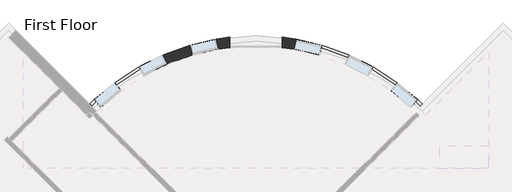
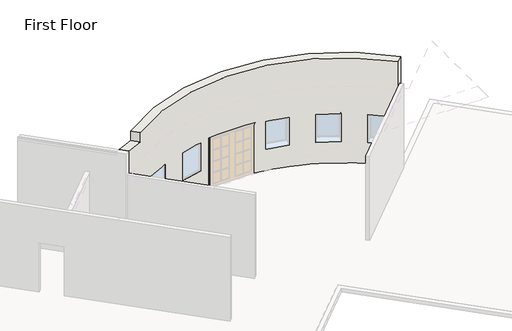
# One storey, part 2 of 4: 1 wall.
"""IFC4 building model written with IfcOpenShell, lengths in millimetres."""

from ifc_helpers import new_model, si_unit, frame, origin, place, context, project, spatial, polyline, circle_curve, ellipse_curve, element, save
from ifc_brep_helpers import plane_surface, cylinder_surface, revolved_surface, advanced_brep

model = new_model("IFC4")

# Units and contexts
model_context = context("Model", 3, world=origin())
ifc_project = project(units=[si_unit("LENGTHUNIT", "METRE", prefix="MILLI")], contexts=[model_context])

# Site, building, storey
site = spatial("IfcSite", under=ifc_project)
building = spatial("IfcBuilding", under=site)
storey = spatial("IfcBuildingStorey", under=building, Name="First Floor", Elevation=0.0)

# Wall
placement = place(None, origin())
element("IfcWall", 1, ObjectType="Exterior - Split Face and CMU on Mtl. Stud", at=placement, inside=storey, context=model_context, shape_type="AdvancedBrep", body=[
    advanced_brep(
    [(-7732.4664887, 9541.1807277, 4572.0), (2926.4294954, 8746.9912878, 4572.0), (2926.4294954, 8746.9912878, 3251.2), (-8662.486224, 8746.9912878, 3251.2), (-8662.486224, 8746.9912878, 4572.0), (-7732.4664887, 9541.1807277, 4165.6), (-3783.1764381, 11081.700582, 0.0), (-8662.486224, 8746.9912878, 0.0), (-8662.486224, 8746.9912878, 1016.0), (-8500.5279216, 8903.2474265, 1016.0), (-8500.5279216, 8903.2474265, 914.4), (-7800.1106469, 9491.0764845, 914.4), (-7800.1106469, 9491.0764845, 1016.0), (-6944.2047205, 10052.3449451, 1016.0), (-6944.2047205, 10052.3449451, 914.4), (-6125.9140626, 10460.4230739, 914.4), (-6125.9140626, 10460.4230739, 1016.0), (-5162.631365, 10806.3763718, 1016.0), (-5162.631365, 10806.3763718, 914.4), (-4271.6861959, 11012.153109, 914.4), (-4271.6861959, 11012.153109, 1016.0), (-3783.1764381, 11081.700582, 1016.0), (2926.4294954, 8746.9912878, 0.0), (-1954.3764458, 11081.8678573, 0.0), (-1954.3764458, 11081.8678573, 1016.0), (-1464.3705327, 11012.153109, 1016.0), (-1464.3705327, 11012.153109, 914.4), (-573.4253636, 10806.3763718, 914.4), (-573.4253636, 10806.3763718, 1016.0), (389.857334, 10460.4230739, 1016.0), (389.857334, 10460.4230739, 914.4), (1208.1479919, 10052.3449451, 914.4), (1208.1479919, 10052.3449451, 1016.0), (2064.0539183, 9491.0764845, 1016.0), (2064.0539183, 9491.0764845, 914.4), (2764.471193, 8903.2474265, 914.4), (2764.471193, 8903.2474265, 1016.0), (2926.4294954, 8746.9912878, 1016.0), (-1954.3764458, 11081.8678573, 2133.6), (-3783.1764381, 11081.700582, 2133.6), (-3783.1764381, 11081.700582, 2336.8), (-4271.6861959, 11012.153109, 2336.8), (-4271.6861959, 11012.153109, 2133.6), (-5162.631365, 10806.3763718, 2133.6), (-5162.631365, 10806.3763718, 2336.8), (-6125.9140626, 10460.4230739, 2336.8), (-6125.9140626, 10460.4230739, 2133.6), (-6944.2047205, 10052.3449451, 2133.6), (-6944.2047205, 10052.3449451, 2336.8), (-7800.1106469, 9491.0764845, 2336.8), (-7800.1106469, 9491.0764845, 2133.6), (-8500.5279216, 8903.2474265, 2133.6), (-8500.5279216, 8903.2474265, 2336.8), (-8662.486224, 8746.9912878, 2336.8), (-8662.486224, 8746.9912878, 3048.0), (2926.4294954, 8746.9912878, 3048.0), (2926.4294954, 8746.9912878, 2336.8), (2764.471193, 8903.2474265, 2336.8), (2764.471193, 8903.2474265, 2133.6), (2064.0539183, 9491.0764845, 2133.6), (2064.0539183, 9491.0764845, 2336.8), (1208.1479919, 10052.3449451, 2336.8), (1208.1479919, 10052.3449451, 2133.6), (389.857334, 10460.4230739, 2133.6), (389.857334, 10460.4230739, 2336.8), (-573.4253636, 10806.3763718, 2336.8), (-573.4253636, 10806.3763718, 2133.6), (-1464.3705327, 11012.153109, 2133.6), (-1464.3705327, 11012.153109, 2336.8), (-1954.3764458, 11081.8678573, 2336.8), (-1954.3764458, 11081.8678573, 1085.85), (-1954.3764458, 11081.8678573, 2133.6), (-1464.3705327, 11012.153109, 2133.6), (-1464.3705327, 11012.153109, 1085.85), (-3783.1764381, 11081.700582, 2133.6), (-3783.1764381, 11081.700582, 1085.85), (-4271.6861959, 11012.153109, 1085.85), (-4271.6861959, 11012.153109, 2133.6), (389.857334, 10460.4230739, 2133.6), (389.857334, 10460.4230739, 1085.85), (-573.4253636, 10806.3763718, 1085.85), (-573.4253636, 10806.3763718, 2133.6), (1208.1479919, 10052.3449451, 1085.85), (1208.1479919, 10052.3449451, 2133.6), (2064.0539183, 9491.0764845, 2133.6), (2064.0539183, 9491.0764845, 1085.85), (2764.471193, 8903.2474265, 1085.85), (2764.471193, 8903.2474265, 2133.6), (2926.4294954, 8746.9912878, 2133.6), (2926.4294954, 8746.9912878, 1085.85), (-6944.2047205, 10052.3449451, 2133.6), (-6944.2047205, 10052.3449451, 1085.85), (-7800.1106469, 9491.0764845, 1085.85), (-7800.1106469, 9491.0764845, 2133.6), (-6125.9140626, 10460.4230739, 1085.85), (-6125.9140626, 10460.4230739, 2133.6), (-5162.631365, 10806.3763718, 2133.6), (-5162.631365, 10806.3763718, 1085.85), (-8500.5279216, 8903.2474265, 2133.6), (-8500.5279216, 8903.2474265, 1085.85), (-8662.486224, 8746.9912878, 1085.85), (-8662.486224, 8746.9912878, 2133.6), (2677.2250436, 8497.7868359, 0.0), (2677.2250436, 8497.7868359, 4165.6), (2677.2250436, 8497.7868359, 4572.0), (-7480.1850855, 9288.8993245, 4572.0), (-7480.1850855, 9288.8993245, 4165.6), (-8413.2817722, 8497.7868359, 4572.0), (-8413.2817722, 8497.7868359, 0.0), (-3783.1439929, 10726.9805509, 0.0), (-3783.1439929, 10726.9805509, 2133.6), (-1954.3440005, 10727.1478261, 2133.6), (-1954.3440005, 10727.1478261, 0.0), (232.3230312, 10144.5305053, 914.4), (232.3230312, 10144.5305053, 2133.6), (1050.6136891, 9736.4523766, 2133.6), (1050.6136891, 9736.4523766, 914.4), (-1543.8084946, 10668.2130246, 914.4), (-1543.8084946, 10668.2130246, 2133.6), (-652.8633255, 10462.4362874, 2133.6), (-652.8633255, 10462.4362874, 914.4), (1837.1286453, 9220.6877054, 914.4), (1837.1286453, 9220.6877054, 2133.6), (2537.5459199, 8632.8586475, 2133.6), (2537.5459199, 8632.8586475, 914.4), (-6786.6704177, 9736.4523766, 914.4), (-6786.6704177, 9736.4523766, 2133.6), (-5968.3797598, 10144.5305053, 2133.6), (-5968.3797598, 10144.5305053, 914.4), (-5083.1934032, 10462.4362874, 914.4), (-5083.1934032, 10462.4362874, 2133.6), (-4192.248234, 10668.2130246, 2133.6), (-4192.248234, 10668.2130246, 914.4), (-8273.6026485, 8632.8586475, 914.4), (-8273.6026485, 8632.8586475, 2133.6), (-7573.1853739, 9220.6877054, 2133.6), (-7573.1853739, 9220.6877054, 914.4), (2861.3220456, 8681.8838379, 1016.0), (2861.3220456, 8681.8838379, 1085.85), (2861.3220456, 8681.8838379, 2133.6), (2861.3220456, 8681.8838379, 2336.8), (2861.3220456, 8681.8838379, 3048.0), (2861.3220456, 8681.8838379, 3251.2), (-8597.3787742, 8681.8838379, 3251.2), (-8597.3787742, 8681.8838379, 3048.0), (-8597.3787742, 8681.8838379, 2336.8), (-8597.3787742, 8681.8838379, 2133.6), (-8597.3787742, 8681.8838379, 1085.85), (-8597.3787742, 8681.8838379, 1016.0), (-3783.1679632, 10989.045348, 1016.0), (-3783.1679632, 10989.045348, 1085.85), (-3783.1679632, 10989.045348, 2133.6), (-1964.5986316, 10990.3620512, 2133.6), (-1954.3679708, 10989.2126232, 2133.6), (-3772.9375129, 10990.1966475, 2133.6), (-1954.3679708, 10989.2126232, 1085.85), (-1954.3679708, 10989.2126232, 1016.0), (348.7018531, 10377.8968537, 1016.0), (348.7018531, 10377.8968537, 1085.85), (348.7018531, 10377.8968537, 2133.6), (1166.992511, 9969.8187249, 2133.6), (1166.992511, 9969.8187249, 1085.85), (1166.992511, 9969.8187249, 1016.0), (1162.5426237, 9972.357721, 2133.6), (353.4072239, 10375.8701608, 2133.6), (-1485.1235209, 10922.2995387, 1016.0), (-1485.1235209, 10922.2995387, 1085.85), (-1485.1235209, 10922.2995387, 2133.6), (-594.1783517, 10716.5228014, 2133.6), (-594.1783517, 10716.5228014, 1085.85), (-594.1783517, 10716.5228014, 1016.0), (-599.0980052, 10717.9528393, 2133.6), (-1480.0750378, 10921.4272905, 2133.6), (2004.7702032, 9420.4380266, 1016.0), (2004.7702032, 9420.4380266, 1085.85), (2004.7702032, 9420.4380266, 2133.6), (2705.1874778, 8832.6089686, 2133.6), (2705.1874778, 8832.6089686, 1085.85), (2705.1874778, 8832.6089686, 1016.0), (2701.4532581, 8836.1166176, 2133.6), (2008.8724422, 9417.3688844, 2133.6), (-6903.0492396, 9969.8187249, 1016.0), (-6903.0492396, 9969.8187249, 1085.85), (-6903.0492396, 9969.8187249, 2133.6), (-6084.7585817, 10377.8968537, 2133.6), (-6084.7585817, 10377.8968537, 1085.85), (-6084.7585817, 10377.8968537, 1016.0), (-6089.4639525, 10375.8701608, 2133.6), (-6898.5993523, 9972.357721, 2133.6), (-5141.8783769, 10716.5228014, 1016.0), (-5141.8783769, 10716.5228014, 1085.85), (-5141.8783769, 10716.5228014, 2133.6), (-4250.9332077, 10922.2995387, 2133.6), (-4250.9332077, 10922.2995387, 1085.85), (-4250.9332077, 10922.2995387, 1016.0), (-4255.9816908, 10921.4272905, 2133.6), (-5136.9587234, 10717.9528393, 2133.6), (-8441.2442064, 8832.6089686, 1016.0), (-8441.2442064, 8832.6089686, 1085.85), (-8441.2442064, 8832.6089686, 2133.6), (-7740.8269318, 9420.4380266, 2133.6), (-7740.8269318, 9420.4380266, 1085.85), (-7740.8269318, 9420.4380266, 1016.0), (-7744.9291708, 9417.3688844, 2133.6), (-8437.5099867, 8836.1166176, 2133.6), (-8437.5099867, 8836.1166176, 2336.8), (-7744.9291708, 9417.3688844, 2336.8), (-6898.5993523, 9972.357721, 2336.8), (-6089.4639525, 10375.8701608, 2336.8), (-5136.9587234, 10717.9528393, 2336.8), (-4255.9816908, 10921.4272905, 2336.8), (-3772.9375129, 10990.1966475, 2336.8), (-1964.5986316, 10990.3620512, 2336.8), (-1480.0750378, 10921.4272905, 2336.8), (-599.0980052, 10717.9528393, 2336.8), (353.4072239, 10375.8701608, 2336.8), (1162.5426237, 9972.357721, 2336.8), (2008.8724422, 9417.3688844, 2336.8), (2701.4532581, 8836.1166176, 2336.8)],
    [
        (0, 1, circle_curve(frame((-2868.0283643, 2903.1420194, 4572.0), z_axis=(0.0, 0.0, -1.0), x_axis=(1.0, 0.0, 0.0)), 8229.6)),
        (1, 2),
        (2, 3, circle_curve(frame((-2868.0283643, 2903.1420194, 3251.2), z_axis=(0.0, 0.0, 1.0), x_axis=(1.0, 0.0, 0.0)), 8229.6)),
        (3, 4),
        (4, 5, ellipse_curve(frame((-2868.0283643, 2903.1420194, 4583.6416667), z_axis=(-0.2236067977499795, -0.22360679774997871, -0.9486832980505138), x_axis=(-0.6708203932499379, -0.6708203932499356, 0.31622776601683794)), 8674.7600774, 8229.6)),
        (5, 0),
        (6, 7, circle_curve(frame((-2868.0283643, 2903.1420194, 0.0), z_axis=(0.0, 0.0, 1.0), x_axis=(1.0, 0.0, 0.0)), 8229.6)),
        (7, 8),
        (8, 9, circle_curve(frame((-2868.0283643, 2903.1420194, 1016.0), z_axis=(0.0, 0.0, -1.0), x_axis=(1.0, 0.0, 0.0)), 8229.6)),
        (9, 10),
        (10, 11, circle_curve(frame((-2868.0283643, 2903.1420194, 914.4), z_axis=(0.0, 0.0, -1.0), x_axis=(1.0, 0.0, 0.0)), 8229.6)),
        (11, 12),
        (12, 13, circle_curve(frame((-2868.0283643, 2903.1420194, 1016.0), z_axis=(0.0, 0.0, -1.0), x_axis=(1.0, 0.0, 0.0)), 8229.6)),
        (13, 14),
        (14, 15, circle_curve(frame((-2868.0283643, 2903.1420194, 914.4), z_axis=(0.0, 0.0, -1.0), x_axis=(1.0, 0.0, 0.0)), 8229.6)),
        (15, 16),
        (16, 17, circle_curve(frame((-2868.0283643, 2903.1420194, 1016.0), z_axis=(0.0, 0.0, -1.0), x_axis=(1.0, 0.0, 0.0)), 8229.6)),
        (17, 18),
        (18, 19, circle_curve(frame((-2868.0283643, 2903.1420194, 914.4), z_axis=(0.0, 0.0, -1.0), x_axis=(1.0, 0.0, 0.0)), 8229.6)),
        (19, 20),
        (20, 21, circle_curve(frame((-2868.0283643, 2903.1420194, 1016.0), z_axis=(0.0, 0.0, -1.0), x_axis=(1.0, 0.0, 0.0)), 8229.6)),
        (21, 6),
        (22, 23, circle_curve(frame((-2868.0283643, 2903.1420194, 0.0), z_axis=(0.0, 0.0, 1.0), x_axis=(1.0, 0.0, 0.0)), 8229.6)),
        (23, 24),
        (24, 25, circle_curve(frame((-2868.0283643, 2903.1420194, 1016.0), z_axis=(0.0, 0.0, -1.0), x_axis=(1.0, 0.0, 0.0)), 8229.6)),
        (25, 26),
        (26, 27, circle_curve(frame((-2868.0283643, 2903.1420194, 914.4), z_axis=(0.0, 0.0, -1.0), x_axis=(1.0, 0.0, 0.0)), 8229.6)),
        (27, 28),
        (28, 29, circle_curve(frame((-2868.0283643, 2903.1420194, 1016.0), z_axis=(0.0, 0.0, -1.0), x_axis=(1.0, 0.0, 0.0)), 8229.6)),
        (29, 30),
        (30, 31, circle_curve(frame((-2868.0283643, 2903.1420194, 914.4), z_axis=(0.0, 0.0, -1.0), x_axis=(1.0, 0.0, 0.0)), 8229.6)),
        (31, 32),
        (32, 33, circle_curve(frame((-2868.0283643, 2903.1420194, 1016.0), z_axis=(0.0, 0.0, -1.0), x_axis=(1.0, 0.0, 0.0)), 8229.6)),
        (33, 34),
        (34, 35, circle_curve(frame((-2868.0283643, 2903.1420194, 914.4), z_axis=(0.0, 0.0, -1.0), x_axis=(1.0, 0.0, 0.0)), 8229.6)),
        (35, 36),
        (36, 37, circle_curve(frame((-2868.0283643, 2903.1420194, 1016.0), z_axis=(0.0, 0.0, -1.0), x_axis=(1.0, 0.0, 0.0)), 8229.6)),
        (37, 22),
        (38, 39, circle_curve(frame((-2868.0283643, 2903.1420194, 2133.6), z_axis=(0.0, 0.0, 1.0), x_axis=(1.0, 0.0, 0.0)), 8229.6)),
        (39, 40),
        (40, 41, circle_curve(frame((-2868.0283643, 2903.1420194, 2336.8), z_axis=(0.0, 0.0, 1.0), x_axis=(1.0, 0.0, 0.0)), 8229.6)),
        (41, 42),
        (42, 43, circle_curve(frame((-2868.0283643, 2903.1420194, 2133.6), z_axis=(0.0, 0.0, 1.0), x_axis=(1.0, 0.0, 0.0)), 8229.6)),
        (43, 44),
        (44, 45, circle_curve(frame((-2868.0283643, 2903.1420194, 2336.8), z_axis=(0.0, 0.0, 1.0), x_axis=(1.0, 0.0, 0.0)), 8229.6)),
        (45, 46),
        (46, 47, circle_curve(frame((-2868.0283643, 2903.1420194, 2133.6), z_axis=(0.0, 0.0, 1.0), x_axis=(1.0, 0.0, 0.0)), 8229.6)),
        (47, 48),
        (48, 49, circle_curve(frame((-2868.0283643, 2903.1420194, 2336.8), z_axis=(0.0, 0.0, 1.0), x_axis=(1.0, 0.0, 0.0)), 8229.6)),
        (49, 50),
        (50, 51, circle_curve(frame((-2868.0283643, 2903.1420194, 2133.6), z_axis=(0.0, 0.0, 1.0), x_axis=(1.0, 0.0, 0.0)), 8229.6)),
        (51, 52),
        (52, 53, circle_curve(frame((-2868.0283643, 2903.1420194, 2336.8), z_axis=(0.0, 0.0, 1.0), x_axis=(1.0, 0.0, 0.0)), 8229.6)),
        (53, 54),
        (54, 55, circle_curve(frame((-2868.0283643, 2903.1420194, 3048.0), z_axis=(0.0, 0.0, -1.0), x_axis=(1.0, 0.0, 0.0)), 8229.6)),
        (55, 56),
        (56, 57, circle_curve(frame((-2868.0283643, 2903.1420194, 2336.8), z_axis=(0.0, 0.0, 1.0), x_axis=(1.0, 0.0, 0.0)), 8229.6)),
        (57, 58),
        (58, 59, circle_curve(frame((-2868.0283643, 2903.1420194, 2133.6), z_axis=(0.0, 0.0, 1.0), x_axis=(1.0, 0.0, 0.0)), 8229.6)),
        (59, 60),
        (60, 61, circle_curve(frame((-2868.0283643, 2903.1420194, 2336.8), z_axis=(0.0, 0.0, 1.0), x_axis=(1.0, 0.0, 0.0)), 8229.6)),
        (61, 62),
        (62, 63, circle_curve(frame((-2868.0283643, 2903.1420194, 2133.6), z_axis=(0.0, 0.0, 1.0), x_axis=(1.0, 0.0, 0.0)), 8229.6)),
        (63, 64),
        (64, 65, circle_curve(frame((-2868.0283643, 2903.1420194, 2336.8), z_axis=(0.0, 0.0, 1.0), x_axis=(1.0, 0.0, 0.0)), 8229.6)),
        (65, 66),
        (66, 67, circle_curve(frame((-2868.0283643, 2903.1420194, 2133.6), z_axis=(0.0, 0.0, 1.0), x_axis=(1.0, 0.0, 0.0)), 8229.6)),
        (67, 68),
        (68, 69, circle_curve(frame((-2868.0283643, 2903.1420194, 2336.8), z_axis=(0.0, 0.0, 1.0), x_axis=(1.0, 0.0, 0.0)), 8229.6)),
        (69, 38),
        (70, 71),
        (71, 72, circle_curve(frame((-2868.0283643, 2903.1420194, 2133.6), z_axis=(0.0, 0.0, -1.0), x_axis=(1.0, 0.0, 0.0)), 8229.6)),
        (72, 73),
        (73, 70, circle_curve(frame((-2868.0283643, 2903.1420194, 1085.85), z_axis=(0.0, 0.0, 1.0), x_axis=(1.0, 0.0, 0.0)), 8229.6)),
        (74, 75),
        (75, 76, circle_curve(frame((-2868.0283643, 2903.1420194, 1085.85), z_axis=(0.0, 0.0, 1.0), x_axis=(1.0, 0.0, 0.0)), 8229.6)),
        (76, 77),
        (77, 74, circle_curve(frame((-2868.0283643, 2903.1420194, 2133.6), z_axis=(0.0, 0.0, -1.0), x_axis=(1.0, 0.0, 0.0)), 8229.6)),
        (78, 79),
        (79, 80, circle_curve(frame((-2868.0283643, 2903.1420194, 1085.85), z_axis=(0.0, 0.0, 1.0), x_axis=(1.0, 0.0, 0.0)), 8229.6)),
        (80, 81),
        (81, 78, circle_curve(frame((-2868.0283643, 2903.1420194, 2133.6), z_axis=(0.0, 0.0, -1.0), x_axis=(1.0, 0.0, 0.0)), 8229.6)),
        (82, 83),
        (83, 84, circle_curve(frame((-2868.0283643, 2903.1420194, 2133.6), z_axis=(0.0, 0.0, -1.0), x_axis=(1.0, 0.0, 0.0)), 8229.6)),
        (84, 85),
        (85, 82, circle_curve(frame((-2868.0283643, 2903.1420194, 1085.85), z_axis=(0.0, 0.0, 1.0), x_axis=(1.0, 0.0, 0.0)), 8229.6)),
        (86, 87),
        (87, 88, circle_curve(frame((-2868.0283643, 2903.1420194, 2133.6), z_axis=(0.0, 0.0, -1.0), x_axis=(1.0, 0.0, 0.0)), 8229.6)),
        (88, 89),
        (89, 86, circle_curve(frame((-2868.0283643, 2903.1420194, 1085.85), z_axis=(0.0, 0.0, 1.0), x_axis=(1.0, 0.0, 0.0)), 8229.6)),
        (90, 91),
        (91, 92, circle_curve(frame((-2868.0283643, 2903.1420194, 1085.85), z_axis=(0.0, 0.0, 1.0), x_axis=(1.0, 0.0, 0.0)), 8229.6)),
        (92, 93),
        (93, 90, circle_curve(frame((-2868.0283643, 2903.1420194, 2133.6), z_axis=(0.0, 0.0, -1.0), x_axis=(1.0, 0.0, 0.0)), 8229.6)),
        (94, 95),
        (95, 96, circle_curve(frame((-2868.0283643, 2903.1420194, 2133.6), z_axis=(0.0, 0.0, -1.0), x_axis=(1.0, 0.0, 0.0)), 8229.6)),
        (96, 97),
        (97, 94, circle_curve(frame((-2868.0283643, 2903.1420194, 1085.85), z_axis=(0.0, 0.0, 1.0), x_axis=(1.0, 0.0, 0.0)), 8229.6)),
        (98, 99),
        (99, 100, circle_curve(frame((-2868.0283643, 2903.1420194, 1085.85), z_axis=(0.0, 0.0, 1.0), x_axis=(1.0, 0.0, 0.0)), 8229.6)),
        (100, 101),
        (101, 98, circle_curve(frame((-2868.0283643, 2903.1420194, 2133.6), z_axis=(0.0, 0.0, -1.0), x_axis=(1.0, 0.0, 0.0)), 8229.6)),
        (102, 103),
        (103, 104),
        (104, 105, circle_curve(frame((-2868.0283643, 2903.1420194, 4572.0), z_axis=(0.0, 0.0, 1.0), x_axis=(1.0, 0.0, 0.0)), 7877.175)),
        (105, 106),
        (106, 107, ellipse_curve(frame((-2868.0283643, 2903.1420194, 4583.6416667), z_axis=(0.2236067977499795, 0.22360679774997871, 0.9486832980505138), x_axis=(0.6708203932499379, 0.6708203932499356, -0.31622776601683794)), 8303.2715092, 7877.175)),
        (107, 108),
        (108, 109, circle_curve(frame((-2868.0283643, 2903.1420194, 0.0), z_axis=(0.0, 0.0, -1.0), x_axis=(1.0, 0.0, 0.0)), 7877.175)),
        (109, 110),
        (110, 111, circle_curve(frame((-2868.0283643, 2903.1420194, 2133.6), z_axis=(0.0, 0.0, -1.0), x_axis=(1.0, 0.0, 0.0)), 7877.175)),
        (111, 112),
        (112, 102, circle_curve(frame((-2868.0283643, 2903.1420194, 0.0), z_axis=(0.0, 0.0, -1.0), x_axis=(1.0, 0.0, 0.0)), 7877.175)),
        (113, 114),
        (114, 115, circle_curve(frame((-2868.0283643, 2903.1420194, 2133.6), z_axis=(0.0, 0.0, -1.0), x_axis=(1.0, 0.0, 0.0)), 7877.175)),
        (115, 116),
        (116, 113, circle_curve(frame((-2868.0283643, 2903.1420194, 914.4), z_axis=(0.0, 0.0, 1.0), x_axis=(1.0, 0.0, 0.0)), 7877.175)),
        (117, 118),
        (118, 119, circle_curve(frame((-2868.0283643, 2903.1420194, 2133.6), z_axis=(0.0, 0.0, -1.0), x_axis=(1.0, 0.0, 0.0)), 7877.175)),
        (119, 120),
        (120, 117, circle_curve(frame((-2868.0283643, 2903.1420194, 914.4), z_axis=(0.0, 0.0, 1.0), x_axis=(1.0, 0.0, 0.0)), 7877.175)),
        (121, 122),
        (122, 123, circle_curve(frame((-2868.0283643, 2903.1420194, 2133.6), z_axis=(0.0, 0.0, -1.0), x_axis=(1.0, 0.0, 0.0)), 7877.175)),
        (123, 124),
        (124, 121, circle_curve(frame((-2868.0283643, 2903.1420194, 914.4), z_axis=(0.0, 0.0, 1.0), x_axis=(1.0, 0.0, 0.0)), 7877.175)),
        (125, 126),
        (126, 127, circle_curve(frame((-2868.0283643, 2903.1420194, 2133.6), z_axis=(0.0, 0.0, -1.0), x_axis=(1.0, 0.0, 0.0)), 7877.175)),
        (127, 128),
        (128, 125, circle_curve(frame((-2868.0283643, 2903.1420194, 914.4), z_axis=(0.0, 0.0, 1.0), x_axis=(1.0, 0.0, 0.0)), 7877.175)),
        (129, 130),
        (130, 131, circle_curve(frame((-2868.0283643, 2903.1420194, 2133.6), z_axis=(0.0, 0.0, -1.0), x_axis=(1.0, 0.0, 0.0)), 7877.175)),
        (131, 132),
        (132, 129, circle_curve(frame((-2868.0283643, 2903.1420194, 914.4), z_axis=(0.0, 0.0, 1.0), x_axis=(1.0, 0.0, 0.0)), 7877.175)),
        (133, 134),
        (134, 135, circle_curve(frame((-2868.0283643, 2903.1420194, 2133.6), z_axis=(0.0, 0.0, -1.0), x_axis=(1.0, 0.0, 0.0)), 7877.175)),
        (135, 136),
        (136, 133, circle_curve(frame((-2868.0283643, 2903.1420194, 914.4), z_axis=(0.0, 0.0, 1.0), x_axis=(1.0, 0.0, 0.0)), 7877.175)),
        (1, 104),
        (102, 22),
        (37, 137),
        (137, 138),
        (138, 89),
        (88, 139),
        (139, 140),
        (140, 56),
        (55, 141),
        (141, 142),
        (142, 2),
        (107, 4),
        (3, 143),
        (143, 144),
        (144, 54),
        (53, 145),
        (145, 146),
        (146, 101),
        (100, 147),
        (147, 148),
        (148, 8),
        (7, 108),
        (0, 105),
        (5, 106),
        (112, 23),
        (6, 109),
        (21, 149),
        (149, 150),
        (150, 75),
        (74, 151),
        (151, 110),
        (38, 152),
        (152, 153, circle_curve(frame((-2868.0283643, 2903.1420194, 2133.6), z_axis=(0.0, 0.0, -1.0), x_axis=(0.1110202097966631, 0.9938181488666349, 0.0)), 8137.525)),
        (153, 111),
        (151, 154, circle_curve(frame((-2868.0283643, 2903.1420194, 2133.6), z_axis=(0.0, 0.0, -1.0), x_axis=(-0.1705620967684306, 0.9853469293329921, 0.0)), 8137.525)),
        (154, 39),
        (153, 71),
        (70, 155),
        (155, 156),
        (156, 24),
        (113, 30),
        (29, 157),
        (157, 158),
        (158, 79),
        (78, 159),
        (159, 114),
        (116, 31),
        (115, 160),
        (160, 83),
        (82, 161),
        (161, 162),
        (162, 32),
        (62, 163),
        (163, 160, circle_curve(frame((-2868.0283643, 2903.1420194, 2133.6), z_axis=(0.0, 0.0, -1.0), x_axis=(0.4953067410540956, 0.868718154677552, 0.0)), 8137.525)),
        (159, 164, circle_curve(frame((-2868.0283643, 2903.1420194, 2133.6), z_axis=(0.0, 0.0, -1.0), x_axis=(0.2788231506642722, 0.9603424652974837, 0.0)), 8137.525)),
        (164, 63),
        (117, 26),
        (25, 165),
        (165, 166),
        (166, 73),
        (72, 167),
        (167, 118),
        (120, 27),
        (119, 168),
        (168, 81),
        (80, 169),
        (169, 170),
        (170, 28),
        (66, 171),
        (171, 168, circle_curve(frame((-2868.0283643, 2903.1420194, 2133.6), z_axis=(0.0, 0.0, -1.0), x_axis=(0.2788231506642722, 0.9603424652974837, 0.0)), 8137.525)),
        (167, 172, circle_curve(frame((-2868.0283643, 2903.1420194, 2133.6), z_axis=(0.0, 0.0, -1.0), x_axis=(0.1110202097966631, 0.9938181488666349, 0.0)), 8137.525)),
        (172, 67),
        (121, 34),
        (33, 173),
        (173, 174),
        (174, 85),
        (84, 175),
        (175, 122),
        (124, 35),
        (123, 176),
        (176, 87),
        (86, 177),
        (177, 178),
        (178, 36),
        (58, 179),
        (179, 176, circle_curve(frame((-2868.0283643, 2903.1420194, 2133.6), z_axis=(0.0, 0.0, -1.0), x_axis=(0.6844196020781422, 0.7290883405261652, 0.0)), 8137.525)),
        (175, 180, circle_curve(frame((-2868.0283643, 2903.1420194, 2133.6), z_axis=(0.0, 0.0, -1.0), x_axis=(0.4953067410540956, 0.868718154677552, 0.0)), 8137.525)),
        (180, 59),
        (125, 14),
        (13, 181),
        (181, 182),
        (182, 91),
        (90, 183),
        (183, 126),
        (128, 15),
        (127, 184),
        (184, 95),
        (94, 185),
        (185, 186),
        (186, 16),
        (46, 187),
        (187, 184, circle_curve(frame((-2868.0283643, 2903.1420194, 2133.6), z_axis=(0.0, 0.0, -1.0), x_axis=(-0.3958741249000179, 0.9183047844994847, 0.0)), 8137.525)),
        (183, 188, circle_curve(frame((-2868.0283643, 2903.1420194, 2133.6), z_axis=(0.0, 0.0, -1.0), x_axis=(-0.5993100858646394, 0.8005169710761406, 0.0)), 8137.525)),
        (188, 47),
        (129, 18),
        (17, 189),
        (189, 190),
        (190, 97),
        (96, 191),
        (191, 130),
        (132, 19),
        (131, 192),
        (192, 77),
        (76, 193),
        (193, 194),
        (194, 20),
        (42, 195),
        (195, 192, circle_curve(frame((-2868.0283643, 2903.1420194, 2133.6), z_axis=(0.0, 0.0, -1.0), x_axis=(-0.1705620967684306, 0.9853469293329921, 0.0)), 8137.525)),
        (191, 196, circle_curve(frame((-2868.0283643, 2903.1420194, 2133.6), z_axis=(0.0, 0.0, -1.0), x_axis=(-0.3958741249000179, 0.9183047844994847, 0.0)), 8137.525)),
        (196, 43),
        (133, 10),
        (9, 197),
        (197, 198),
        (198, 99),
        (98, 199),
        (199, 134),
        (136, 11),
        (135, 200),
        (200, 93),
        (92, 201),
        (201, 202),
        (202, 12),
        (50, 203),
        (203, 200, circle_curve(frame((-2868.0283643, 2903.1420194, 2133.6), z_axis=(0.0, 0.0, -1.0), x_axis=(-0.5993100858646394, 0.8005169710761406, 0.0)), 8137.525)),
        (199, 204, circle_curve(frame((-2868.0283643, 2903.1420194, 2133.6), z_axis=(0.0, 0.0, -1.0), x_axis=(-0.7120553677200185, 0.70212331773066, 0.0)), 8137.525)),
        (204, 51),
        (198, 147, circle_curve(frame((-2868.0283643, 2903.1420194, 1085.85), z_axis=(0.0, 0.0, 1.0), x_axis=(-0.7040995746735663, 0.7101012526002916, 0.0)), 8137.525)),
        (148, 197, circle_curve(frame((-2868.0283643, 2903.1420194, 1016.0), z_axis=(0.0, 0.0, -1.0), x_axis=(-0.7040995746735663, 0.7101012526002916, 0.0)), 8137.525)),
        (182, 201, circle_curve(frame((-2868.0283643, 2903.1420194, 1085.85), z_axis=(0.0, 0.0, 1.0), x_axis=(-0.5993100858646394, 0.8005169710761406, 0.0)), 8137.525)),
        (202, 181, circle_curve(frame((-2868.0283643, 2903.1420194, 1016.0), z_axis=(0.0, 0.0, -1.0), x_axis=(-0.5993100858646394, 0.8005169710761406, 0.0)), 8137.525)),
        (190, 185, circle_curve(frame((-2868.0283643, 2903.1420194, 1085.85), z_axis=(0.0, 0.0, 1.0), x_axis=(-0.3958741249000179, 0.9183047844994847, 0.0)), 8137.525)),
        (186, 189, circle_curve(frame((-2868.0283643, 2903.1420194, 1016.0), z_axis=(0.0, 0.0, -1.0), x_axis=(-0.3958741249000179, 0.9183047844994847, 0.0)), 8137.525)),
        (150, 193, circle_curve(frame((-2868.0283643, 2903.1420194, 1085.85), z_axis=(0.0, 0.0, 1.0), x_axis=(-0.1705620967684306, 0.9853469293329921, 0.0)), 8137.525)),
        (194, 149, circle_curve(frame((-2868.0283643, 2903.1420194, 1016.0), z_axis=(0.0, 0.0, -1.0), x_axis=(-0.1705620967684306, 0.9853469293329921, 0.0)), 8137.525)),
        (166, 155, circle_curve(frame((-2868.0283643, 2903.1420194, 1085.85), z_axis=(0.0, 0.0, 1.0), x_axis=(0.1110202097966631, 0.9938181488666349, 0.0)), 8137.525)),
        (156, 165, circle_curve(frame((-2868.0283643, 2903.1420194, 1016.0), z_axis=(0.0, 0.0, -1.0), x_axis=(0.1110202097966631, 0.9938181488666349, 0.0)), 8137.525)),
        (158, 169, circle_curve(frame((-2868.0283643, 2903.1420194, 1085.85), z_axis=(0.0, 0.0, 1.0), x_axis=(0.2788231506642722, 0.9603424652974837, 0.0)), 8137.525)),
        (170, 157, circle_curve(frame((-2868.0283643, 2903.1420194, 1016.0), z_axis=(0.0, 0.0, -1.0), x_axis=(0.2788231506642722, 0.9603424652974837, 0.0)), 8137.525)),
        (174, 161, circle_curve(frame((-2868.0283643, 2903.1420194, 1085.85), z_axis=(0.0, 0.0, 1.0), x_axis=(0.4953067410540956, 0.868718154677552, 0.0)), 8137.525)),
        (162, 173, circle_curve(frame((-2868.0283643, 2903.1420194, 1016.0), z_axis=(0.0, 0.0, -1.0), x_axis=(0.4953067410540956, 0.868718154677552, 0.0)), 8137.525)),
        (138, 177, circle_curve(frame((-2868.0283643, 2903.1420194, 1085.85), z_axis=(0.0, 0.0, 1.0), x_axis=(0.6844196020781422, 0.7290883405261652, 0.0)), 8137.525)),
        (178, 137, circle_curve(frame((-2868.0283643, 2903.1420194, 1016.0), z_axis=(0.0, 0.0, -1.0), x_axis=(0.6844196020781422, 0.7290883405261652, 0.0)), 8137.525)),
        (205, 52),
        (204, 205),
        (146, 199, circle_curve(frame((-2868.0283643, 2903.1420194, 2133.6), z_axis=(0.0, 0.0, -1.0), x_axis=(-0.7120553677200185, 0.70212331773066, 0.0)), 8137.525)),
        (145, 205, circle_curve(frame((-2868.0283643, 2903.1420194, 2336.8), z_axis=(0.0, 0.0, -1.0), x_axis=(-0.7120553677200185, 0.70212331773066, 0.0)), 8137.525)),
        (206, 203),
        (49, 206),
        (207, 48),
        (188, 207),
        (200, 183, circle_curve(frame((-2868.0283643, 2903.1420194, 2133.6), z_axis=(0.0, 0.0, -1.0), x_axis=(-0.5993100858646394, 0.8005169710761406, 0.0)), 8137.525)),
        (206, 207, circle_curve(frame((-2868.0283643, 2903.1420194, 2336.8), z_axis=(0.0, 0.0, -1.0), x_axis=(-0.5993100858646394, 0.8005169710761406, 0.0)), 8137.525)),
        (208, 187),
        (45, 208),
        (209, 44),
        (196, 209),
        (184, 191, circle_curve(frame((-2868.0283643, 2903.1420194, 2133.6), z_axis=(0.0, 0.0, -1.0), x_axis=(-0.3958741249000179, 0.9183047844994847, 0.0)), 8137.525)),
        (208, 209, circle_curve(frame((-2868.0283643, 2903.1420194, 2336.8), z_axis=(0.0, 0.0, -1.0), x_axis=(-0.3958741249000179, 0.9183047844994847, 0.0)), 8137.525)),
        (210, 195),
        (41, 210),
        (211, 40),
        (154, 211),
        (192, 151, circle_curve(frame((-2868.0283643, 2903.1420194, 2133.6), z_axis=(0.0, 0.0, -1.0), x_axis=(-0.1705620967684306, 0.9853469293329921, 0.0)), 8137.525)),
        (210, 211, circle_curve(frame((-2868.0283643, 2903.1420194, 2336.8), z_axis=(0.0, 0.0, -1.0), x_axis=(-0.1705620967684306, 0.9853469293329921, 0.0)), 8137.525)),
        (212, 152),
        (69, 212),
        (213, 68),
        (172, 213),
        (153, 167, circle_curve(frame((-2868.0283643, 2903.1420194, 2133.6), z_axis=(0.0, 0.0, -1.0), x_axis=(0.1110202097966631, 0.9938181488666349, 0.0)), 8137.525)),
        (212, 213, circle_curve(frame((-2868.0283643, 2903.1420194, 2336.8), z_axis=(0.0, 0.0, -1.0), x_axis=(0.1110202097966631, 0.9938181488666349, 0.0)), 8137.525)),
        (214, 171),
        (65, 214),
        (215, 64),
        (164, 215),
        (168, 159, circle_curve(frame((-2868.0283643, 2903.1420194, 2133.6), z_axis=(0.0, 0.0, -1.0), x_axis=(0.2788231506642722, 0.9603424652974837, 0.0)), 8137.525)),
        (214, 215, circle_curve(frame((-2868.0283643, 2903.1420194, 2336.8), z_axis=(0.0, 0.0, -1.0), x_axis=(0.2788231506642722, 0.9603424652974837, 0.0)), 8137.525)),
        (216, 163),
        (61, 216),
        (217, 60),
        (180, 217),
        (160, 175, circle_curve(frame((-2868.0283643, 2903.1420194, 2133.6), z_axis=(0.0, 0.0, -1.0), x_axis=(0.4953067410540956, 0.868718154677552, 0.0)), 8137.525)),
        (216, 217, circle_curve(frame((-2868.0283643, 2903.1420194, 2336.8), z_axis=(0.0, 0.0, -1.0), x_axis=(0.4953067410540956, 0.868718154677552, 0.0)), 8137.525)),
        (218, 179),
        (57, 218),
        (176, 139, circle_curve(frame((-2868.0283643, 2903.1420194, 2133.6), z_axis=(0.0, 0.0, -1.0), x_axis=(0.6844196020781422, 0.7290883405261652, 0.0)), 8137.525)),
        (218, 140, circle_curve(frame((-2868.0283643, 2903.1420194, 2336.8), z_axis=(0.0, 0.0, -1.0), x_axis=(0.6844196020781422, 0.7290883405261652, 0.0)), 8137.525)),
        (144, 141, circle_curve(frame((-2868.0283643, 2903.1420194, 3048.0), z_axis=(0.0, 0.0, -1.0), x_axis=(-0.7120553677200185, 0.70212331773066, 0.0)), 8137.525)),
        (143, 142, circle_curve(frame((-2868.0283643, 2903.1420194, 3251.2), z_axis=(0.0, 0.0, -1.0), x_axis=(-0.7120553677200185, 0.70212331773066, 0.0)), 8137.525)),
    ],
    [
        cylinder_surface(frame((-2868.0283643, 2903.1420194, 0.0), z_axis=(0.0, 0.0, 1.0), x_axis=(1.0, 0.0, 0.0)), 8229.6),
        revolved_surface(polyline([(5009.146635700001, 2903.1420194, 0.0), (5009.146635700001, 2903.1420194, 7209.366666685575)]), (-2868.0283643, 2903.1420194, 0.0), (0.0, 0.0, -1.0)),
        plane_surface(frame((2735.6514552, 8556.2132476, 0.0), z_axis=(0.707106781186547, -0.7071067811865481, 0.0), x_axis=(-0.7071067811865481, -0.707106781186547, 0.0))),
        plane_surface(frame((-11489.0742405, 11573.5793042, 0.0), z_axis=(-0.7071067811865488, -0.7071067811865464, 0.0), x_axis=(-0.7071067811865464, 0.7071067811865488, 0.0))),
        plane_surface(frame((5361.5716357, 2903.1420194, 4572.0), z_axis=(0.0, 0.0, 1.0), x_axis=(0.0, 1.0, 0.0))),
        plane_surface(frame((-6316.4467148, 8125.1609538, 4165.6), z_axis=(-0.7071067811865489, -0.7071067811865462, 0.0), x_axis=(-0.7071067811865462, 0.7071067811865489, 0.0))),
        plane_surface(frame((-1143.8191891, 2952.533428, 4165.6), z_axis=(0.2236067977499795, 0.22360679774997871, 0.9486832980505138), x_axis=(-0.7071067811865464, 0.7071067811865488, 0.0))),
        plane_surface(frame((-11364.4731869, 11448.9782506, 0.0), z_axis=(0.0, 0.0, -1.0), x_axis=(-0.7071067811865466, 0.7071067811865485, 0.0))),
        plane_surface(frame((-3783.3158341, 12605.7005756, 0.0), z_axis=(0.9999999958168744, 9.14672155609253e-05, 0.0), x_axis=(9.14672155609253e-05, -0.9999999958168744, 0.0))),
        plane_surface(frame((-3783.3158341, 12605.7005756, 2133.6), z_axis=(0.0, 0.0, -1.0000000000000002), x_axis=(9.14672155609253e-05, -0.9999999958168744, 0.0))),
        plane_surface(frame((-1954.5158418, 12605.8678509, 2133.6), z_axis=(-0.9999999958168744, -9.146721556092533e-05, 0.0), x_axis=(9.146721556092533e-05, -0.9999999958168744, 0.0))),
        plane_surface(frame((389.857334, 10460.4230739, 2133.6), z_axis=(0.8948935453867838, -0.44627966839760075, 0.0), x_axis=(-0.44627966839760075, -0.8948935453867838, 0.0))),
        plane_surface(frame((389.857334, 10460.4230739, 914.4), z_axis=(0.0, 0.0, 1.0000000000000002), x_axis=(-0.44627966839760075, -0.8948935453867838, 0.0))),
        plane_surface(frame((1208.1479919, 10052.3449451, 914.4), z_axis=(-0.8948935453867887, 0.4462796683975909, 0.0), x_axis=(-0.4462796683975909, -0.8948935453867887, 0.0))),
        plane_surface(frame((1208.1479919, 10052.3449451, 2133.6), z_axis=(0.0, 0.0, -1.0000000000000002), x_axis=(-0.4462796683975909, -0.8948935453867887, 0.0))),
        plane_surface(frame((-1464.3705327, 11012.153109, 2133.6), z_axis=(0.974349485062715, -0.2250401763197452, 0.0), x_axis=(-0.2250401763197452, -0.974349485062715, 0.0))),
        plane_surface(frame((-1464.3705327, 11012.153109, 914.4), z_axis=(0.0, 0.0, 1.0), x_axis=(-0.2250401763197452, -0.974349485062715, 0.0))),
        plane_surface(frame((-573.4253636, 10806.3763718, 914.4), z_axis=(-0.9743494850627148, 0.22504017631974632, 0.0), x_axis=(-0.22504017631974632, -0.9743494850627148, 0.0))),
        plane_surface(frame((-573.4253636, 10806.3763718, 2133.6), z_axis=(0.0, 0.0, -1.0), x_axis=(-0.22504017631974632, -0.9743494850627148, 0.0))),
        plane_surface(frame((2064.0539183, 9491.0764845, 2133.6), z_axis=(0.7659856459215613, -0.6428576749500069, 0.0), x_axis=(-0.6428576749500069, -0.7659856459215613, 0.0))),
        plane_surface(frame((2064.0539183, 9491.0764845, 914.4), z_axis=(0.0, 0.0, 1.0000000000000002), x_axis=(-0.6428576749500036, -0.765985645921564, 0.0))),
        plane_surface(frame((2764.471193, 8903.2474265, 914.4), z_axis=(-0.7659856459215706, 0.6428576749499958, 0.0), x_axis=(-0.6428576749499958, -0.7659856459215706, 0.0))),
        plane_surface(frame((2764.471193, 8903.2474265, 2133.6), z_axis=(0.0, 0.0, -1.0000000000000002), x_axis=(-0.6428576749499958, -0.7659856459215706, 0.0))),
        plane_surface(frame((-6944.2047205, 10052.3449451, 2133.6), z_axis=(0.8948935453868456, 0.4462796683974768, 0.0), x_axis=(0.4462796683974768, -0.8948935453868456, 0.0))),
        plane_surface(frame((-6944.2047205, 10052.3449451, 914.4), z_axis=(0.0, 0.0, 1.0000000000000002), x_axis=(0.44627966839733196, -0.8948935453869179, 0.0))),
        plane_surface(frame((-6125.9140626, 10460.4230739, 914.4), z_axis=(-0.8948935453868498, -0.4462796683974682, 0.0), x_axis=(0.4462796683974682, -0.8948935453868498, 0.0))),
        plane_surface(frame((-6125.9140626, 10460.4230739, 2133.6), z_axis=(0.0, 0.0, -1.0000000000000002), x_axis=(0.4462796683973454, -0.8948935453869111, 0.0))),
        plane_surface(frame((-4819.6701363, 9321.4677565, 2133.6), z_axis=(0.9743494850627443, 0.22504017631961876, 0.0), x_axis=(-0.22504017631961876, 0.9743494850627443, 0.0))),
        plane_surface(frame((-4819.6701363, 9321.4677565, 914.4), z_axis=(0.0, 0.0, 1.0), x_axis=(-0.22504017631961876, 0.9743494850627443, 0.0))),
        plane_surface(frame((-3928.7249672, 9527.2444938, 914.4), z_axis=(-0.9743494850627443, -0.22504017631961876, 0.0), x_axis=(-0.22504017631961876, 0.9743494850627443, 0.0))),
        plane_surface(frame((-3928.7249672, 9527.2444938, 2133.6), z_axis=(0.0, 0.0, -1.0), x_axis=(-0.22504017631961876, 0.9743494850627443, 0.0))),
        plane_surface(frame((-8500.5279216, 8903.2474265, 2133.6), z_axis=(0.7659856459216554, 0.6428576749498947, 0.0), x_axis=(0.6428576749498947, -0.7659856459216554, 0.0))),
        plane_surface(frame((-8500.5279216, 8903.2474265, 914.4), z_axis=(0.0, 0.0, 1.0000000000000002), x_axis=(0.64285767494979, -0.7659856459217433, 0.0))),
        plane_surface(frame((-7800.1106469, 9491.0764845, 914.4), z_axis=(-0.7659856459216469, -0.6428576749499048, 0.0), x_axis=(0.6428576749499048, -0.7659856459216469, 0.0))),
        plane_surface(frame((-7800.1106469, 9491.0764845, 2133.6), z_axis=(0.0, 0.0, -1.0000000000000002), x_axis=(0.642857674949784, -0.7659856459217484, 0.0))),
        plane_surface(frame((-2868.0283643, 2903.1420194, 1085.85), z_axis=(0.0, 0.0, -1.0), x_axis=(-0.7040995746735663, 0.7101012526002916, 0.0))),
        plane_surface(frame((-2868.0283643, 2903.1420194, 1016.0), z_axis=(0.0, 0.0, 1.0), x_axis=(-0.7040995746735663, 0.7101012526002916, 0.0))),
        cylinder_surface(frame((-2868.0283643, 2903.1420194, 1016.0), z_axis=(0.0, 0.0, -1.0), x_axis=(-0.7040995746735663, 0.7101012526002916, 0.0)), 8137.525),
        plane_surface(frame((-2868.0283643, 2903.1420194, 1085.85), z_axis=(0.0, 0.0, -1.0), x_axis=(-0.5993100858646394, 0.8005169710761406, 0.0))),
        plane_surface(frame((-2868.0283643, 2903.1420194, 1016.0), z_axis=(0.0, 0.0, 1.0), x_axis=(-0.5993100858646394, 0.8005169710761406, 0.0))),
        cylinder_surface(frame((-2868.0283643, 2903.1420194, 1016.0), z_axis=(0.0, 0.0, -1.0), x_axis=(-0.5993100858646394, 0.8005169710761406, 0.0)), 8137.525),
        plane_surface(frame((-2868.0283643, 2903.1420194, 1085.85), z_axis=(0.0, 0.0, -1.0), x_axis=(-0.3958741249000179, 0.9183047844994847, 0.0))),
        plane_surface(frame((-2868.0283643, 2903.1420194, 1016.0), z_axis=(0.0, 0.0, 1.0), x_axis=(-0.3958741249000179, 0.9183047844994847, 0.0))),
        cylinder_surface(frame((-2868.0283643, 2903.1420194, 1016.0), z_axis=(0.0, 0.0, -1.0), x_axis=(-0.3958741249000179, 0.9183047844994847, 0.0)), 8137.525),
        plane_surface(frame((-2868.0283643, 2903.1420194, 1085.85), z_axis=(0.0, 0.0, -1.0000000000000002), x_axis=(-0.17056209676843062, 0.9853469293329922, 0.0))),
        plane_surface(frame((-2868.0283643, 2903.1420194, 1016.0), z_axis=(0.0, 0.0, 1.0000000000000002), x_axis=(-0.17056209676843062, 0.9853469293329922, 0.0))),
        cylinder_surface(frame((-2868.0283643, 2903.1420194, 1016.0), z_axis=(0.0, 0.0, -1.0), x_axis=(-0.1705620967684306, 0.9853469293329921, 0.0)), 8137.525),
        plane_surface(frame((-2868.0283643, 2903.1420194, 1085.85), z_axis=(0.0, 0.0, -1.0000000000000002), x_axis=(0.11102020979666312, 0.993818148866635, 0.0))),
        plane_surface(frame((-2868.0283643, 2903.1420194, 1016.0), z_axis=(0.0, 0.0, 1.0000000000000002), x_axis=(0.11102020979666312, 0.993818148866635, 0.0))),
        cylinder_surface(frame((-2868.0283643, 2903.1420194, 1016.0), z_axis=(0.0, 0.0, -1.0), x_axis=(0.1110202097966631, 0.9938181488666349, 0.0)), 8137.525),
        plane_surface(frame((-2868.0283643, 2903.1420194, 1085.85), z_axis=(0.0, 0.0, -1.0), x_axis=(0.2788231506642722, 0.9603424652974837, 0.0))),
        plane_surface(frame((-2868.0283643, 2903.1420194, 1016.0), z_axis=(0.0, 0.0, 1.0), x_axis=(0.2788231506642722, 0.9603424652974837, 0.0))),
        cylinder_surface(frame((-2868.0283643, 2903.1420194, 1016.0), z_axis=(0.0, 0.0, -1.0), x_axis=(0.2788231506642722, 0.9603424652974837, 0.0)), 8137.525),
        plane_surface(frame((-2868.0283643, 2903.1420194, 1085.85), z_axis=(0.0, 0.0, -1.0), x_axis=(0.4953067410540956, 0.868718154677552, 0.0))),
        plane_surface(frame((-2868.0283643, 2903.1420194, 1016.0), z_axis=(0.0, 0.0, 1.0), x_axis=(0.4953067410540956, 0.868718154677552, 0.0))),
        cylinder_surface(frame((-2868.0283643, 2903.1420194, 1016.0), z_axis=(0.0, 0.0, -1.0), x_axis=(0.4953067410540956, 0.868718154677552, 0.0)), 8137.525),
        plane_surface(frame((-2868.0283643, 2903.1420194, 1085.85), z_axis=(0.0, 0.0, -1.0), x_axis=(0.6844196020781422, 0.7290883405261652, 0.0))),
        plane_surface(frame((-2868.0283643, 2903.1420194, 1016.0), z_axis=(0.0, 0.0, 1.0), x_axis=(0.6844196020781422, 0.7290883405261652, 0.0))),
        cylinder_surface(frame((-2868.0283643, 2903.1420194, 1016.0), z_axis=(0.0, 0.0, -1.0), x_axis=(0.6844196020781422, 0.7290883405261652, 0.0)), 8137.525),
        plane_surface(frame((-2868.0283643, 2903.1420194, 2133.6), z_axis=(-0.7290883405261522, -0.6844196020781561, 0.0), x_axis=(-0.6844196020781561, 0.7290883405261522, 0.0))),
        plane_surface(frame((-2868.0283643, 2903.1420194, 2133.6), z_axis=(0.0, 0.0, 1.0), x_axis=(-0.7120553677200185, 0.70212331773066, 0.0))),
        cylinder_surface(frame((-2868.0283643, 2903.1420194, 2133.6), z_axis=(0.0, 0.0, -1.0), x_axis=(-0.7120553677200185, 0.70212331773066, 0.0)), 8137.525),
        plane_surface(frame((-2868.0283643, 2903.1420194, 2336.8), z_axis=(0.0, 0.0, -1.0), x_axis=(-0.7120553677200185, 0.70212331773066, 0.0))),
        plane_surface(frame((-2868.0283643, 2903.1420194, 2133.6), z_axis=(0.8005169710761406, 0.5993100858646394, 0.0), x_axis=(-0.5993100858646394, 0.8005169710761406, 0.0))),
        plane_surface(frame((-2868.0283643, 2903.1420194, 2133.6), z_axis=(-0.8687181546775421, -0.4953067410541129, 0.0), x_axis=(-0.4953067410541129, 0.8687181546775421, 0.0))),
        plane_surface(frame((-2868.0283643, 2903.1420194, 2133.6), z_axis=(0.0, 0.0, 1.0), x_axis=(-0.5993100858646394, 0.8005169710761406, 0.0))),
        cylinder_surface(frame((-2868.0283643, 2903.1420194, 2133.6), z_axis=(0.0, 0.0, -1.0), x_axis=(-0.5993100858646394, 0.8005169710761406, 0.0)), 8137.525),
        plane_surface(frame((-2868.0283643, 2903.1420194, 2336.8), z_axis=(0.0, 0.0, -1.0), x_axis=(-0.5993100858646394, 0.8005169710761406, 0.0))),
        plane_surface(frame((-2868.0283643, 2903.1420194, 2133.6), z_axis=(0.9183047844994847, 0.3958741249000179, 0.0), x_axis=(-0.3958741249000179, 0.9183047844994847, 0.0))),
        plane_surface(frame((-2868.0283643, 2903.1420194, 2133.6), z_axis=(-0.9603424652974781, -0.2788231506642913, 0.0), x_axis=(-0.2788231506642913, 0.9603424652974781, 0.0))),
        plane_surface(frame((-2868.0283643, 2903.1420194, 2133.6), z_axis=(0.0, 0.0, 1.0), x_axis=(-0.3958741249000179, 0.9183047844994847, 0.0))),
        cylinder_surface(frame((-2868.0283643, 2903.1420194, 2133.6), z_axis=(0.0, 0.0, -1.0), x_axis=(-0.3958741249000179, 0.9183047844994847, 0.0)), 8137.525),
        plane_surface(frame((-2868.0283643, 2903.1420194, 2336.8), z_axis=(0.0, 0.0, -1.0), x_axis=(-0.3958741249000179, 0.9183047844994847, 0.0))),
        plane_surface(frame((-2868.0283643, 2903.1420194, 2133.6), z_axis=(0.9853469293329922, 0.17056209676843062, 0.0), x_axis=(-0.17056209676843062, 0.9853469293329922, 0.0))),
        plane_surface(frame((-2868.0283643, 2903.1420194, 2133.6), z_axis=(-0.9937978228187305, -0.1112020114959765, 0.0), x_axis=(-0.1112020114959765, 0.9937978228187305, 0.0))),
        plane_surface(frame((-2868.0283643, 2903.1420194, 2133.6), z_axis=(0.0, 0.0, 1.0000000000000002), x_axis=(-0.17056209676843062, 0.9853469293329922, 0.0))),
        cylinder_surface(frame((-2868.0283643, 2903.1420194, 2133.6), z_axis=(0.0, 0.0, -1.0), x_axis=(-0.1705620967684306, 0.9853469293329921, 0.0)), 8137.525),
        plane_surface(frame((-2868.0283643, 2903.1420194, 2336.8), z_axis=(0.0, 0.0, -1.0000000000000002), x_axis=(-0.17056209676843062, 0.9853469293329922, 0.0))),
        plane_surface(frame((-2868.0283643, 2903.1420194, 2133.6), z_axis=(0.993818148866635, -0.11102020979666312, 0.0), x_axis=(0.11102020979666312, 0.993818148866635, 0.0))),
        plane_surface(frame((-2868.0283643, 2903.1420194, 2133.6), z_axis=(-0.9853469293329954, 0.17056209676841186, 0.0), x_axis=(0.17056209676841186, 0.9853469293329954, 0.0))),
        plane_surface(frame((-2868.0283643, 2903.1420194, 2133.6), z_axis=(0.0, 0.0, 1.0000000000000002), x_axis=(0.11102020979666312, 0.993818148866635, 0.0))),
        cylinder_surface(frame((-2868.0283643, 2903.1420194, 2133.6), z_axis=(0.0, 0.0, -1.0), x_axis=(0.1110202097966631, 0.9938181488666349, 0.0)), 8137.525),
        plane_surface(frame((-2868.0283643, 2903.1420194, 2336.8), z_axis=(0.0, 0.0, -1.0000000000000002), x_axis=(0.11102020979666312, 0.993818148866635, 0.0))),
        plane_surface(frame((-2868.0283643, 2903.1420194, 2133.6), z_axis=(0.9603424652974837, -0.2788231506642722, 0.0), x_axis=(0.2788231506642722, 0.9603424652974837, 0.0))),
        plane_surface(frame((-2868.0283643, 2903.1420194, 2133.6), z_axis=(-0.918304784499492, 0.3958741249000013, 0.0), x_axis=(0.3958741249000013, 0.918304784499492, 0.0))),
        plane_surface(frame((-2868.0283643, 2903.1420194, 2133.6), z_axis=(0.0, 0.0, 1.0), x_axis=(0.2788231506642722, 0.9603424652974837, 0.0))),
        cylinder_surface(frame((-2868.0283643, 2903.1420194, 2133.6), z_axis=(0.0, 0.0, -1.0), x_axis=(0.2788231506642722, 0.9603424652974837, 0.0)), 8137.525),
        plane_surface(frame((-2868.0283643, 2903.1420194, 2336.8), z_axis=(0.0, 0.0, -1.0), x_axis=(0.2788231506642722, 0.9603424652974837, 0.0))),
        plane_surface(frame((-2868.0283643, 2903.1420194, 2133.6), z_axis=(0.868718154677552, -0.4953067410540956, 0.0), x_axis=(0.4953067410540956, 0.868718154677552, 0.0))),
        plane_surface(frame((-2868.0283643, 2903.1420194, 2133.6), z_axis=(-0.800516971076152, 0.5993100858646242, 0.0), x_axis=(0.5993100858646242, 0.800516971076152, 0.0))),
        plane_surface(frame((-2868.0283643, 2903.1420194, 2133.6), z_axis=(0.0, 0.0, 1.0), x_axis=(0.4953067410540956, 0.868718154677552, 0.0))),
        cylinder_surface(frame((-2868.0283643, 2903.1420194, 2133.6), z_axis=(0.0, 0.0, -1.0), x_axis=(0.4953067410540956, 0.868718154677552, 0.0)), 8137.525),
        plane_surface(frame((-2868.0283643, 2903.1420194, 2336.8), z_axis=(0.0, 0.0, -1.0), x_axis=(0.4953067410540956, 0.868718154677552, 0.0))),
        plane_surface(frame((-2868.0283643, 2903.1420194, 2133.6), z_axis=(0.7290883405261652, -0.6844196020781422, 0.0), x_axis=(0.6844196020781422, 0.7290883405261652, 0.0))),
        plane_surface(frame((-2868.0283643, 2903.1420194, 2133.6), z_axis=(0.0, 0.0, 1.0), x_axis=(0.6844196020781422, 0.7290883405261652, 0.0))),
        cylinder_surface(frame((-2868.0283643, 2903.1420194, 2133.6), z_axis=(0.0, 0.0, -1.0), x_axis=(0.6844196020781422, 0.7290883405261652, 0.0)), 8137.525),
        plane_surface(frame((-2868.0283643, 2903.1420194, 2336.8), z_axis=(0.0, 0.0, -1.0), x_axis=(0.6844196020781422, 0.7290883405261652, 0.0))),
        plane_surface(frame((-2868.0283643, 2903.1420194, 3048.0), z_axis=(0.0, 0.0, 1.0), x_axis=(-0.7120553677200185, 0.70212331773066, 0.0))),
        cylinder_surface(frame((-2868.0283643, 2903.1420194, 3048.0), z_axis=(0.0, 0.0, -1.0), x_axis=(-0.7120553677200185, 0.70212331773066, 0.0)), 8137.525),
        plane_surface(frame((-2868.0283643, 2903.1420194, 3251.2), z_axis=(0.0, 0.0, -1.0), x_axis=(-0.7120553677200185, 0.70212331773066, 0.0))),
    ],
    [
        (0, [[1, 2, 3, 4, 5, 6]]),
        (0, [[7, 8, 9, 10, 11, 12, 13, 14, 15, 16, 17, 18, 19, 20, 21, 22]]),
        (0, [[23, 24, 25, 26, 27, 28, 29, 30, 31, 32, 33, 34, 35, 36, 37, 38]]),
        (0, [[39, 40, 41, 42, 43, 44, 45, 46, 47, 48, 49, 50, 51, 52, 53, 54, 55, 56, 57, 58, 59, 60, 61, 62, 63, 64, 65, 66, 67, 68, 69, 70]]),
        (0, [[71, 72, 73, 74]]),
        (0, [[75, 76, 77, 78]]),
        (0, [[79, 80, 81, 82]]),
        (0, [[83, 84, 85, 86]]),
        (0, [[87, 88, 89, 90]]),
        (0, [[91, 92, 93, 94]]),
        (0, [[95, 96, 97, 98]]),
        (0, [[99, 100, 101, 102]]),
        (1, [[103, 104, 105, 106, 107, 108, 109, 110, 111, 112, 113], [114, 115, 116, 117], [118, 119, 120, 121], [122, 123, 124, 125], [126, 127, 128, 129], [130, 131, 132, 133], [134, 135, 136, 137]]),
        (2, [[138, -104, -103, 139, -38, 140, 141, 142, -89, 143, 144, 145, -56, 146, 147, 148, -2]]),
        (3, [[-108, 149, -4, 150, 151, 152, -54, 153, 154, 155, -101, 156, 157, 158, -8, 159]]),
        (4, [[-138, -1, 160, -105]]),
        (5, [[-160, -6, 161, -106]]),
        (6, [[-5, -149, -107, -161]]),
        (7, [[-139, -113, 162, -23]]),
        (7, [[-159, -7, 163, -109]]),
        (8, [[-110, -163, -22, 164, 165, 166, -75, 167, 168]]),
        (9, [[-39, 169, 170, 171, -111, -168, 172, 173]]),
        (10, [[-112, -171, 174, -71, 175, 176, 177, -24, -162]]),
        (11, [[-114, 178, -30, 179, 180, 181, -79, 182, 183]]),
        (12, [[-31, -178, -117, 184]]),
        (13, [[-116, 185, 186, -83, 187, 188, 189, -32, -184]]),
        (14, [[-63, 190, 191, -185, -115, -183, 192, 193]]),
        (15, [[-118, 194, -26, 195, 196, 197, -73, 198, 199]]),
        (16, [[-27, -194, -121, 200]]),
        (17, [[-120, 201, 202, -81, 203, 204, 205, -28, -200]]),
        (18, [[-67, 206, 207, -201, -119, -199, 208, 209]]),
        (19, [[-122, 210, -34, 211, 212, 213, -85, 214, 215]]),
        (20, [[-35, -210, -125, 216]]),
        (21, [[-124, 217, 218, -87, 219, 220, 221, -36, -216]]),
        (22, [[-59, 222, 223, -217, -123, -215, 224, 225]]),
        (23, [[-126, 226, -14, 227, 228, 229, -91, 230, 231]]),
        (24, [[-15, -226, -129, 232]]),
        (25, [[-128, 233, 234, -95, 235, 236, 237, -16, -232]]),
        (26, [[-47, 238, 239, -233, -127, -231, 240, 241]]),
        (27, [[242, -18, 243, 244, 245, -97, 246, 247, -130]]),
        (28, [[-242, -133, 248, -19]]),
        (29, [[-248, -132, 249, 250, -77, 251, 252, 253, -20]]),
        (30, [[-43, 254, 255, -249, -131, -247, 256, 257]]),
        (31, [[-134, 258, -10, 259, 260, 261, -99, 262, 263]]),
        (32, [[-11, -258, -137, 264]]),
        (33, [[-136, 265, 266, -93, 267, 268, 269, -12, -264]]),
        (34, [[-51, 270, 271, -265, -135, -263, 272, 273]]),
        (35, [[274, -156, -100, -261]]),
        (36, [[275, -259, -9, -158]]),
        (37, [[-274, -260, -275, -157]]),
        (38, [[276, -267, -92, -229]]),
        (39, [[277, -227, -13, -269]]),
        (40, [[-276, -228, -277, -268]]),
        (41, [[278, -235, -98, -245]]),
        (42, [[279, -243, -17, -237]]),
        (43, [[-278, -244, -279, -236]]),
        (44, [[280, -251, -76, -166]]),
        (45, [[281, -164, -21, -253]]),
        (46, [[-280, -165, -281, -252]]),
        (47, [[282, -175, -74, -197]]),
        (48, [[283, -195, -25, -177]]),
        (49, [[-282, -196, -283, -176]]),
        (50, [[284, -203, -80, -181]]),
        (51, [[285, -179, -29, -205]]),
        (52, [[-284, -180, -285, -204]]),
        (53, [[286, -187, -86, -213]]),
        (54, [[287, -211, -33, -189]]),
        (55, [[-286, -212, -287, -188]]),
        (56, [[288, -219, -90, -142]]),
        (57, [[289, -140, -37, -221]]),
        (58, [[-288, -141, -289, -220]]),
        (59, [[290, -52, -273, 291]]),
        (60, [[292, -262, -102, -155]]),
        (61, [[-291, -272, -292, -154, 293]]),
        (62, [[-290, -293, -153, -53]]),
        (63, [[294, -270, -50, 295]]),
        (64, [[296, -48, -241, 297]]),
        (65, [[298, -230, -94, -266]]),
        (66, [[-294, 299, -297, -240, -298, -271]]),
        (67, [[-295, -49, -296, -299]]),
        (68, [[300, -238, -46, 301]]),
        (69, [[302, -44, -257, 303]]),
        (70, [[304, -246, -96, -234]]),
        (71, [[-300, 305, -303, -256, -304, -239]]),
        (72, [[-301, -45, -302, -305]]),
        (73, [[306, -254, -42, 307]]),
        (74, [[308, -40, -173, 309]]),
        (75, [[310, -167, -78, -250]]),
        (76, [[-306, 311, -309, -172, -310, -255]]),
        (77, [[-307, -41, -308, -311]]),
        (78, [[312, -169, -70, 313]]),
        (79, [[314, -68, -209, 315]]),
        (80, [[316, -198, -72, -174]]),
        (81, [[-312, 317, -315, -208, -316, -170]]),
        (82, [[-313, -69, -314, -317]]),
        (83, [[318, -206, -66, 319]]),
        (84, [[320, -64, -193, 321]]),
        (85, [[322, -182, -82, -202]]),
        (86, [[-318, 323, -321, -192, -322, -207]]),
        (87, [[-319, -65, -320, -323]]),
        (88, [[324, -190, -62, 325]]),
        (89, [[326, -60, -225, 327]]),
        (90, [[328, -214, -84, -186]]),
        (91, [[-324, 329, -327, -224, -328, -191]]),
        (92, [[-325, -61, -326, -329]]),
        (93, [[330, -222, -58, 331]]),
        (94, [[332, -143, -88, -218]]),
        (95, [[-330, 333, -144, -332, -223]]),
        (96, [[-331, -57, -145, -333]]),
        (97, [[334, -146, -55, -152]]),
        (98, [[-334, -151, 335, -147]]),
        (99, [[-335, -150, -3, -148]]),
    ],
),
])

save(model, "model.ifc")
